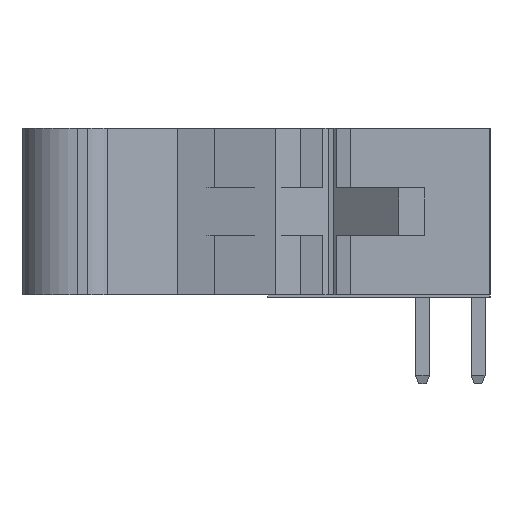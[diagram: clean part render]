
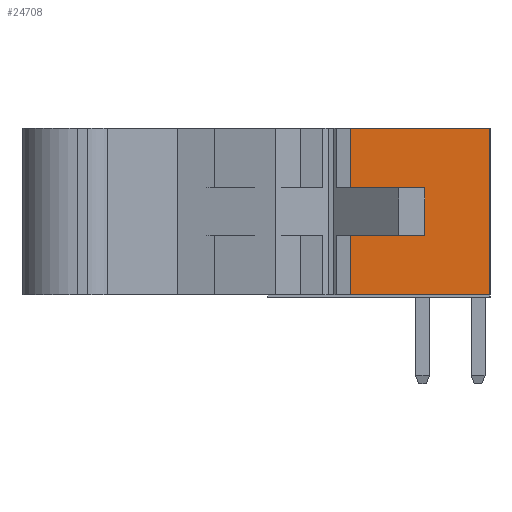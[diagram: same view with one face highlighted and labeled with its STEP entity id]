
A CAD part, left-side view. The second image highlights one B-rep face of the part: STEP entity #24708.
In plain terms, the highlighted planar face has unit normal (-1, 0, 0).
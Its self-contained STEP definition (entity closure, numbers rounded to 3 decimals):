
#214 = EDGE_LOOP ( 'NONE', ( #34345, #33744, #18296, #45457, #37669, #12743, #54441, #27586 ) ) ;
#640 = VERTEX_POINT ( 'NONE', #48303 ) ;
#2336 = CARTESIAN_POINT ( 'NONE',  ( -18.052, -6.989, 3. ) ) ;
#2463 = VECTOR ( 'NONE', #39599, 1000. ) ;
#3427 = CARTESIAN_POINT ( 'NONE',  ( -18.052, -3.644, 0.85 ) ) ;
#4831 = VECTOR ( 'NONE', #37209, 1000. ) ;
#5423 = CARTESIAN_POINT ( 'NONE',  ( -18.052, -3.644, 3. ) ) ;
#5704 = LINE ( 'NONE', #5423, #4831 ) ;
#6958 = VERTEX_POINT ( 'NONE', #3427 ) ;
#6975 = CARTESIAN_POINT ( 'NONE',  ( -18.052, -1.97, -0.85 ) ) ;
#7068 = AXIS2_PLACEMENT_3D ( 'NONE', #38358, #33936, #44217 ) ;
#7744 = VERTEX_POINT ( 'NONE', #29811 ) ;
#8049 = VERTEX_POINT ( 'NONE', #38197 ) ;
#8309 = LINE ( 'NONE', #13901, #8311 ) ;
#8311 = VECTOR ( 'NONE', #49219, 1000. ) ;
#10339 = CARTESIAN_POINT ( 'NONE',  ( -18.052, -1.97, 0.85 ) ) ;
#12567 = LINE ( 'NONE', #21411, #36870 ) ;
#12743 = ORIENTED_EDGE ( 'NONE', *, *, #38479, .T. ) ;
#12967 = VECTOR ( 'NONE', #18523, 1000. ) ;
#13901 = CARTESIAN_POINT ( 'NONE',  ( -18.052, -3.644, 3. ) ) ;
#14180 = VERTEX_POINT ( 'NONE', #19800 ) ;
#14476 = LINE ( 'NONE', #18630, #52259 ) ;
#14850 = EDGE_CURVE ( 'NONE', #6958, #37872, #19668, .T. ) ;
#16400 = DIRECTION ( 'NONE',  ( 0., 0., 1. ) ) ;
#17002 = LINE ( 'NONE', #6975, #31759 ) ;
#17512 = CARTESIAN_POINT ( 'NONE',  ( -18.052, -3.644, -3. ) ) ;
#18296 = ORIENTED_EDGE ( 'NONE', *, *, #46457, .F. ) ;
#18523 = DIRECTION ( 'NONE',  ( 0., 1., 0. ) ) ;
#18630 = CARTESIAN_POINT ( 'NONE',  ( -18.052, -1.97, -0.85 ) ) ;
#19668 = LINE ( 'NONE', #32335, #12967 ) ;
#19800 = CARTESIAN_POINT ( 'NONE',  ( -18.052, -1.97, -3. ) ) ;
#20392 = PLANE ( 'NONE',  #7068 ) ;
#21411 = CARTESIAN_POINT ( 'NONE',  ( -18.052, -1.97, 0.85 ) ) ;
#21634 = LINE ( 'NONE', #17512, #2463 ) ;
#24708 = ADVANCED_FACE ( 'NONE', ( #42754 ), #20392, .F. ) ;
#24940 = DIRECTION ( 'NONE',  ( 0., -1., 0. ) ) ;
#27423 = CARTESIAN_POINT ( 'NONE',  ( -18.052, -3.644, -0.85 ) ) ;
#27586 = ORIENTED_EDGE ( 'NONE', *, *, #43920, .T. ) ;
#28036 = DIRECTION ( 'NONE',  ( 0., 0., -1. ) ) ;
#28777 = EDGE_CURVE ( 'NONE', #7744, #53092, #17002, .T. ) ;
#29120 = CARTESIAN_POINT ( 'NONE',  ( -18.052, -1.97, 3. ) ) ;
#29811 = CARTESIAN_POINT ( 'NONE',  ( -18.052, -1.97, -0.85 ) ) ;
#31759 = VECTOR ( 'NONE', #24940, 1000. ) ;
#32335 = CARTESIAN_POINT ( 'NONE',  ( -18.052, -3.644, 0.85 ) ) ;
#33113 = EDGE_CURVE ( 'NONE', #14180, #640, #21634, .T. ) ;
#33744 = ORIENTED_EDGE ( 'NONE', *, *, #53145, .F. ) ;
#33936 = DIRECTION ( 'NONE',  ( 1., 0., 0. ) ) ;
#34345 = ORIENTED_EDGE ( 'NONE', *, *, #33113, .T. ) ;
#35255 = VERTEX_POINT ( 'NONE', #29120 ) ;
#36870 = VECTOR ( 'NONE', #16400, 1000. ) ;
#37209 = DIRECTION ( 'NONE',  ( 0., 0., -1. ) ) ;
#37669 = ORIENTED_EDGE ( 'NONE', *, *, #14850, .F. ) ;
#37872 = VERTEX_POINT ( 'NONE', #10339 ) ;
#38197 = CARTESIAN_POINT ( 'NONE',  ( -18.052, -6.989, 3. ) ) ;
#38358 = CARTESIAN_POINT ( 'NONE',  ( -18.052, -3.644, 3. ) ) ;
#38479 = EDGE_CURVE ( 'NONE', #6958, #53092, #5704, .T. ) ;
#39599 = DIRECTION ( 'NONE',  ( 0., -1., 0. ) ) ;
#42754 = FACE_OUTER_BOUND ( 'NONE', #214, .T. ) ;
#43920 = EDGE_CURVE ( 'NONE', #7744, #14180, #14476, .T. ) ;
#44217 = DIRECTION ( 'NONE',  ( 0., 1., 0. ) ) ;
#45457 = ORIENTED_EDGE ( 'NONE', *, *, #52529, .F. ) ;
#46338 = VECTOR ( 'NONE', #52096, 1000. ) ;
#46457 = EDGE_CURVE ( 'NONE', #35255, #8049, #8309, .T. ) ;
#48303 = CARTESIAN_POINT ( 'NONE',  ( -18.052, -6.989, -3. ) ) ;
#49219 = DIRECTION ( 'NONE',  ( 0., -1., 0. ) ) ;
#52096 = DIRECTION ( 'NONE',  ( 0., 0., -1. ) ) ;
#52259 = VECTOR ( 'NONE', #28036, 1000. ) ;
#52400 = LINE ( 'NONE', #2336, #46338 ) ;
#52529 = EDGE_CURVE ( 'NONE', #37872, #35255, #12567, .T. ) ;
#53092 = VERTEX_POINT ( 'NONE', #27423 ) ;
#53145 = EDGE_CURVE ( 'NONE', #8049, #640, #52400, .T. ) ;
#54441 = ORIENTED_EDGE ( 'NONE', *, *, #28777, .F. ) ;
